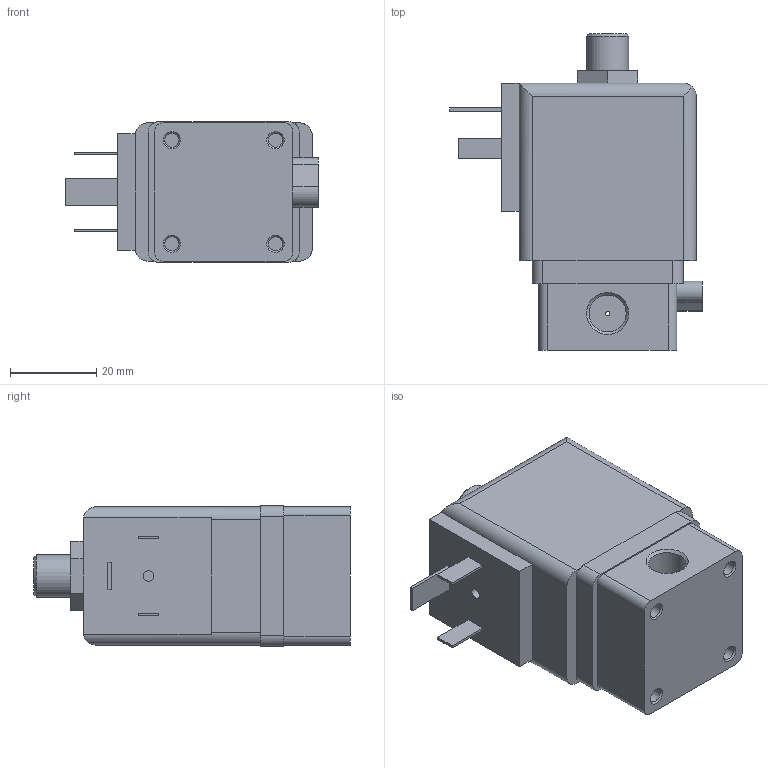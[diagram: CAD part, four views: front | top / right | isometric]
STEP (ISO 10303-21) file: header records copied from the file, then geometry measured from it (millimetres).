
FILE_DESCRIPTION(/* description */ ('STEP AP214'),/* implementation_level */ '2;1');
FILE_NAME(/* name */ '6014-126211-3_2-way_Solenoid_Valve_direct-acting',/* time_stamp */ '2024-08-12T14:01:25+02:00',/* author */ ('License CC BY-ND 4.0'),/* organization */ ('CADENAS'),/* preprocessor_version */ 'ST-DEVELOPER v19.3',/* originating_system */ 'PARTsolutions',/* authorisation */ ' ');
FILE_SCHEMA (('AUTOMOTIVE_DESIGN {1 0 10303 214 3 1 1}'));
Length unit declared in the file: millimetre
Products named in the file (1): 6014-126211-3/2-way Solenoid Valve direct-acting
Bounding box: 58.45 x 73.3 x 32.6 mm (x, y, z)
Volume: 78702.6 mm3; surface area: 13172.6 mm2
Topology: 1 solids, 1 shells, 91 faces, 217 edges, 140 vertices
Faces by surface type: plane 58, cylinder 26, cone 7
Full cylindrical faces by diameter (mm): 1 x1, 2.46 x1, 3.242 x4, 8.566 x2, 9.728 x1
Entity records: 3200 total; most frequent: DIRECTION 447, CARTESIAN_POINT 431, ORIENTED_EDGE 400, EDGE_CURVE 200, AXIS2_PLACEMENT_3D 155, VERTEX_POINT 139, LINE 137, VECTOR 137
